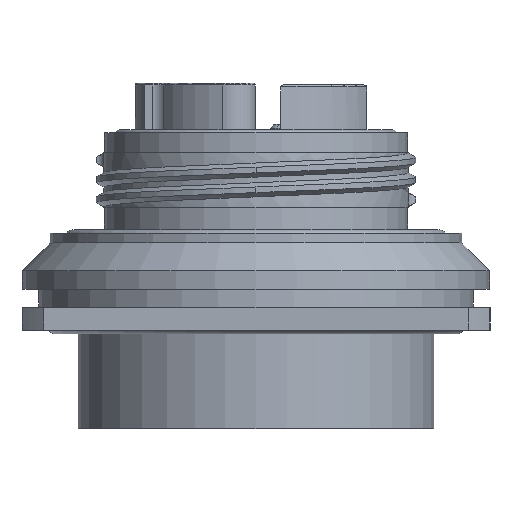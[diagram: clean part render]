
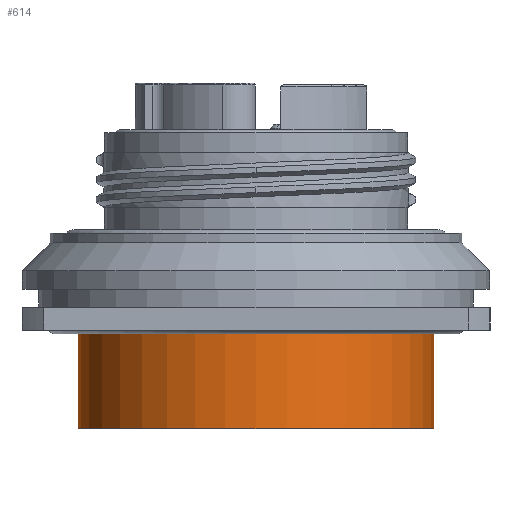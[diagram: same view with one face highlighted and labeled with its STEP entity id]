
A CAD part, left-side view. The second image highlights one B-rep face of the part: STEP entity #614.
In plain terms, the highlighted cylindrical face has radius 22.86 mm (diameter 45.72 mm), a partial arc.
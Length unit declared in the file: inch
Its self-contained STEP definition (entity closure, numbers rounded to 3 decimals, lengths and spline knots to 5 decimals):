
#272 = VERTEX_POINT ( 'NONE', #3216 ) ;
#614 = ADVANCED_FACE ( 'NONE', ( #679 ), #5119, .T. ) ;
#679 = FACE_OUTER_BOUND ( 'NONE', #9545, .T. ) ;
#779 = DIRECTION ( 'NONE',  ( 0., 1., 0. ) ) ;
#1628 = CARTESIAN_POINT ( 'NONE',  ( 0., -0.9, -1. ) ) ;
#1895 = CARTESIAN_POINT ( 'NONE',  ( 0., -0.9, -1.49856 ) ) ;
#3216 = CARTESIAN_POINT ( 'NONE',  ( 0., 0.9, -1. ) ) ;
#3362 = ORIENTED_EDGE ( 'NONE', *, *, #18978, .T. ) ;
#3837 = VERTEX_POINT ( 'NONE', #1895 ) ;
#4477 = AXIS2_PLACEMENT_3D ( 'NONE', #14131, #11022, #17237 ) ;
#4801 = CIRCLE ( 'NONE', #4477, 0.9 ) ;
#5117 = CARTESIAN_POINT ( 'NONE',  ( 0., 0., -1.49856 ) ) ;
#5119 = CYLINDRICAL_SURFACE ( 'NONE', #6293, 0.9 ) ;
#5757 = LINE ( 'NONE', #7602, #8454 ) ;
#6066 = EDGE_CURVE ( 'NONE', #13079, #3837, #7217, .T. ) ;
#6293 = AXIS2_PLACEMENT_3D ( 'NONE', #11784, #18133, #8348 ) ;
#6333 = VECTOR ( 'NONE', #13774, 39.37008 ) ;
#7217 = LINE ( 'NONE', #9082, #6333 ) ;
#7602 = CARTESIAN_POINT ( 'NONE',  ( 0., 0.9, 0. ) ) ;
#8348 = DIRECTION ( 'NONE',  ( 0., 1., 0. ) ) ;
#8454 = VECTOR ( 'NONE', #12098, 39.37008 ) ;
#8517 = EDGE_CURVE ( 'NONE', #3837, #16346, #16502, .T. ) ;
#9082 = CARTESIAN_POINT ( 'NONE',  ( 0., -0.9, 0. ) ) ;
#9545 = EDGE_LOOP ( 'NONE', ( #20442, #13253, #3362, #16988 ) ) ;
#11022 = DIRECTION ( 'NONE',  ( 0., 0., -1. ) ) ;
#11473 = DIRECTION ( 'NONE',  ( 0., 0., -1. ) ) ;
#11784 = CARTESIAN_POINT ( 'NONE',  ( 0., 0., 0. ) ) ;
#12098 = DIRECTION ( 'NONE',  ( 0., 0., -1. ) ) ;
#13079 = VERTEX_POINT ( 'NONE', #1628 ) ;
#13253 = ORIENTED_EDGE ( 'NONE', *, *, #19481, .T. ) ;
#13774 = DIRECTION ( 'NONE',  ( 0., 0., -1. ) ) ;
#14131 = CARTESIAN_POINT ( 'NONE',  ( 0., 0., -1. ) ) ;
#14468 = CARTESIAN_POINT ( 'NONE',  ( 0., 0.9, -1.49856 ) ) ;
#14842 = AXIS2_PLACEMENT_3D ( 'NONE', #5117, #11473, #779 ) ;
#16346 = VERTEX_POINT ( 'NONE', #14468 ) ;
#16502 = CIRCLE ( 'NONE', #14842, 0.9 ) ;
#16988 = ORIENTED_EDGE ( 'NONE', *, *, #8517, .F. ) ;
#17237 = DIRECTION ( 'NONE',  ( 0., 1., 0. ) ) ;
#18133 = DIRECTION ( 'NONE',  ( 0., 0., -1. ) ) ;
#18978 = EDGE_CURVE ( 'NONE', #272, #16346, #5757, .T. ) ;
#19481 = EDGE_CURVE ( 'NONE', #13079, #272, #4801, .T. ) ;
#20442 = ORIENTED_EDGE ( 'NONE', *, *, #6066, .F. ) ;
